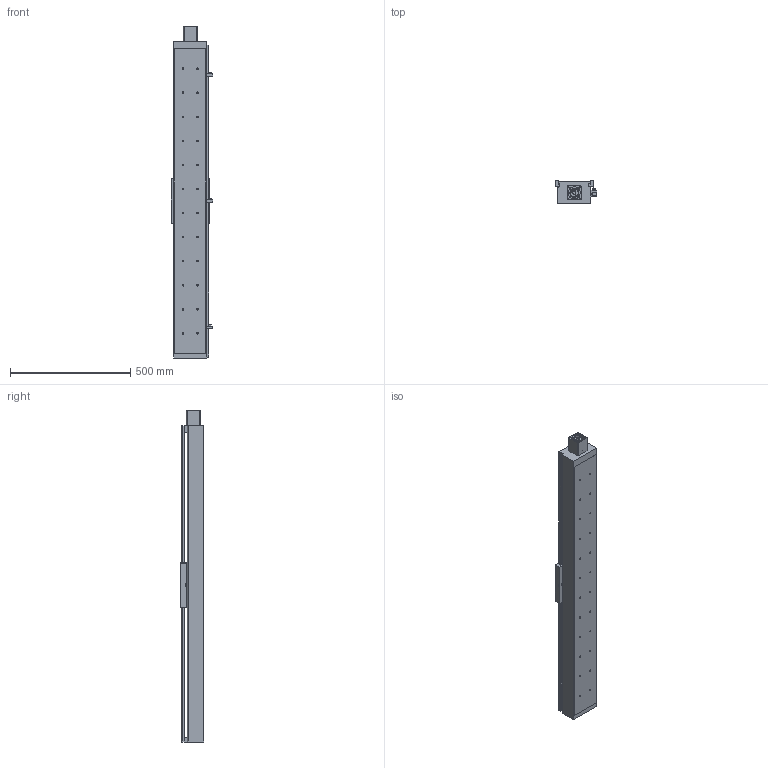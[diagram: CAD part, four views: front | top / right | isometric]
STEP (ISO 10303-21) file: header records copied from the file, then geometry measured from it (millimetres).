
FILE_DESCRIPTION((''),'2;1');
FILE_NAME('E:\libraries\UIA actuator library 2009\standard actuator\UIA136 ball screw 20\UIA136R15NDC stp file 27Apr16\UIA136R15NDC-1050-R20_ _-M60-P13-C10-S.stp','2016-04-27T14:37:47',('h029'),(''),'Autodesk Inventor 11','Autodesk Inventor 11','');
FILE_SCHEMA(('AUTOMOTIVE_DESIGN { 1 0 10303 214 1 1 1 1 }'));
Length unit declared in the file: millimetre
Products named in the file (10): UIA136R15NDC-1050; UIA136R15NDC-body; motor mount F60; SOH-32C; SOH-32C-3; SOH-32C-1; SOH-32C-2; Carriage; Sensor Switch; sensor rail
Assembly tree (9 placements, depth 3):
  UIA136R15NDC-1050
    UIA136R15NDC-body
    motor mount F60
    SOH-32C
      SOH-32C-3
      SOH-32C-1
      SOH-32C-2
    Carriage
    Sensor Switch
    sensor rail
Bounding box: 174.5 x 98 x 1380 mm (x, y, z)
Volume: 5071994 mm3; surface area: 1422096.3 mm2
Topology: 8 solids, 8 shells, 519 faces, 1353 edges, 889 vertices
Faces by surface type: plane 313, bspline 162, cylinder 40, cone 4
Full cylindrical faces by diameter (mm): 2.459 x2, 3.242 x2, 4.5 x2, 5.5 x3, 7.5 x2, 10 x2, 12 x1, 14 x1, 32 x3, 37 x1, 41.9 x1, 42.1 x1, 43.5 x1
Entity records: 17051 total; most frequent: CARTESIAN_POINT 5162, ORIENTED_EDGE 2282, DIRECTION 2218, EDGE_CURVE 1141, VERTEX_POINT 824, EDGE_LOOP 805, VECTOR 798, LINE 798
